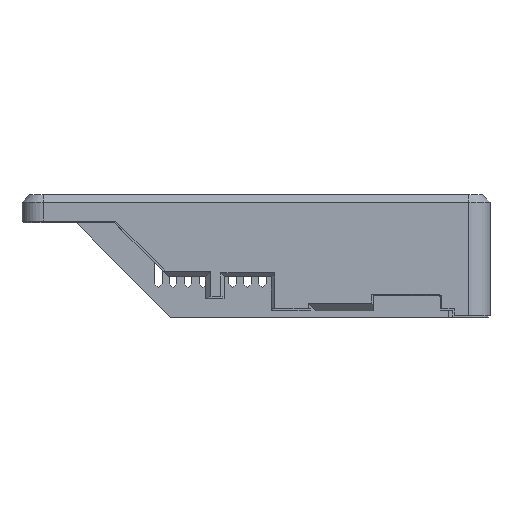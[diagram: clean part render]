
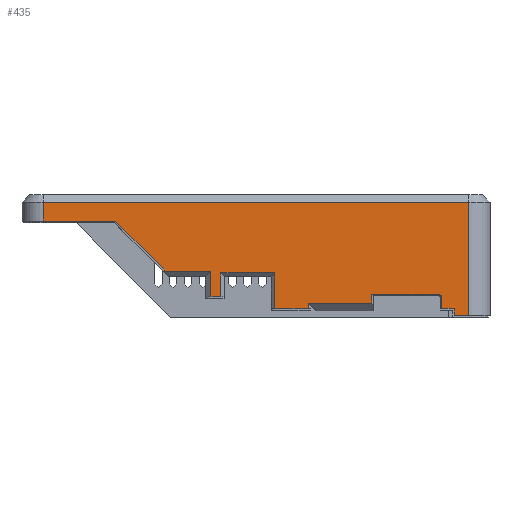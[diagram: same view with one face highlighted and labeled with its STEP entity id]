
A CAD part, front view. The second image highlights one B-rep face of the part: STEP entity #435.
In plain terms, the highlighted planar face has unit normal (0, -1, 0).
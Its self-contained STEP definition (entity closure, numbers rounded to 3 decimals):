
#127 = VERTEX_POINT('',#128);
#128 = CARTESIAN_POINT('',(42.95,-38.75,2.4));
#134 = EDGE_CURVE('',#127,#135,#137,.T.);
#135 = VERTEX_POINT('',#136);
#136 = CARTESIAN_POINT('',(42.95,-38.75,5.4));
#137 = LINE('',#138,#139);
#138 = CARTESIAN_POINT('',(42.95,-38.75,2.4));
#139 = VECTOR('',#140,1.);
#140 = DIRECTION('',(0.,0.,1.));
#188 = EDGE_CURVE('',#127,#189,#191,.T.);
#189 = VERTEX_POINT('',#190);
#190 = CARTESIAN_POINT('',(46.4,-38.75,2.4));
#191 = LINE('',#192,#193);
#192 = CARTESIAN_POINT('',(45.9,-38.75,2.4));
#193 = VECTOR('',#194,1.);
#194 = DIRECTION('',(1.,0.,0.));
#359 = EDGE_CURVE('',#135,#360,#362,.T.);
#360 = VERTEX_POINT('',#361);
#361 = CARTESIAN_POINT('',(42.05,-38.75,6.3));
#362 = CIRCLE('',#363,0.9);
#363 = AXIS2_PLACEMENT_3D('',#364,#365,#366);
#364 = CARTESIAN_POINT('',(42.05,-38.75,5.4));
#365 = DIRECTION('',(0.,-1.,0.));
#366 = DIRECTION('',(1.,0.,0.));
#435 = ADVANCED_FACE('',(#436),#591,.T.);
#436 = FACE_BOUND('',#437,.T.);
#437 = EDGE_LOOP('',(#438,#448,#456,#462,#463,#464,#465,#473,#481,#489,
    #497,#505,#513,#521,#529,#537,#545,#553,#561,#569,#577,#585));
#438 = ORIENTED_EDGE('',*,*,#439,.T.);
#439 = EDGE_CURVE('',#440,#442,#444,.T.);
#440 = VERTEX_POINT('',#441);
#441 = CARTESIAN_POINT('',(7.05,-38.75,3.9));
#442 = VERTEX_POINT('',#443);
#443 = CARTESIAN_POINT('',(24.15,-38.75,3.9));
#444 = LINE('',#445,#446);
#445 = CARTESIAN_POINT('',(27.475,-38.75,3.9));
#446 = VECTOR('',#447,1.);
#447 = DIRECTION('',(1.,0.,0.));
#448 = ORIENTED_EDGE('',*,*,#449,.F.);
#449 = EDGE_CURVE('',#450,#442,#452,.T.);
#450 = VERTEX_POINT('',#451);
#451 = CARTESIAN_POINT('',(24.15,-38.75,6.3));
#452 = LINE('',#453,#454);
#453 = CARTESIAN_POINT('',(24.15,-38.75,5.9));
#454 = VECTOR('',#455,1.);
#455 = DIRECTION('',(0.,0.,-1.));
#456 = ORIENTED_EDGE('',*,*,#457,.F.);
#457 = EDGE_CURVE('',#360,#450,#458,.T.);
#458 = LINE('',#459,#460);
#459 = CARTESIAN_POINT('',(42.05,-38.75,6.3));
#460 = VECTOR('',#461,1.);
#461 = DIRECTION('',(-1.,0.,0.));
#462 = ORIENTED_EDGE('',*,*,#359,.F.);
#463 = ORIENTED_EDGE('',*,*,#134,.F.);
#464 = ORIENTED_EDGE('',*,*,#188,.T.);
#465 = ORIENTED_EDGE('',*,*,#466,.T.);
#466 = EDGE_CURVE('',#189,#467,#469,.T.);
#467 = VERTEX_POINT('',#468);
#468 = CARTESIAN_POINT('',(46.4,-38.75,0.6));
#469 = LINE('',#470,#471);
#470 = CARTESIAN_POINT('',(46.4,-38.75,0.1));
#471 = VECTOR('',#472,1.);
#472 = DIRECTION('',(0.,0.,-1.));
#473 = ORIENTED_EDGE('',*,*,#474,.T.);
#474 = EDGE_CURVE('',#467,#475,#477,.T.);
#475 = VERTEX_POINT('',#476);
#476 = CARTESIAN_POINT('',(50.25,-38.75,0.6));
#477 = LINE('',#478,#479);
#478 = CARTESIAN_POINT('',(49.45,-38.75,0.6));
#479 = VECTOR('',#480,1.);
#480 = DIRECTION('',(1.,0.,0.));
#481 = ORIENTED_EDGE('',*,*,#482,.T.);
#482 = EDGE_CURVE('',#475,#483,#485,.T.);
#483 = VERTEX_POINT('',#484);
#484 = CARTESIAN_POINT('',(50.25,-38.75,31.1));
#485 = LINE('',#486,#487);
#486 = CARTESIAN_POINT('',(50.25,-38.75,0.1));
#487 = VECTOR('',#488,1.);
#488 = DIRECTION('',(0.,0.,1.));
#489 = ORIENTED_EDGE('',*,*,#490,.F.);
#490 = EDGE_CURVE('',#491,#483,#493,.T.);
#491 = VERTEX_POINT('',#492);
#492 = CARTESIAN_POINT('',(-64.25,-38.75,31.1));
#493 = LINE('',#494,#495);
#494 = CARTESIAN_POINT('',(19.45,-38.75,31.1));
#495 = VECTOR('',#496,1.);
#496 = DIRECTION('',(1.,0.,0.));
#497 = ORIENTED_EDGE('',*,*,#498,.F.);
#498 = EDGE_CURVE('',#499,#491,#501,.T.);
#499 = VERTEX_POINT('',#500);
#500 = CARTESIAN_POINT('',(-64.25,-38.75,26.));
#501 = LINE('',#502,#503);
#502 = CARTESIAN_POINT('',(-64.25,-38.75,30.1));
#503 = VECTOR('',#504,1.);
#504 = DIRECTION('',(0.,0.,1.));
#505 = ORIENTED_EDGE('',*,*,#506,.T.);
#506 = EDGE_CURVE('',#499,#507,#509,.T.);
#507 = VERTEX_POINT('',#508);
#508 = CARTESIAN_POINT('',(-44.793,-38.75,26.));
#509 = LINE('',#510,#511);
#510 = CARTESIAN_POINT('',(0.45,-38.75,26.));
#511 = VECTOR('',#512,1.);
#512 = DIRECTION('',(1.,0.,0.));
#513 = ORIENTED_EDGE('',*,*,#514,.T.);
#514 = EDGE_CURVE('',#507,#515,#517,.T.);
#515 = VERTEX_POINT('',#516);
#516 = CARTESIAN_POINT('',(-31.621,-38.75,12.828));
#517 = LINE('',#518,#519);
#518 = CARTESIAN_POINT('',(-9.059,-38.75,-9.734));
#519 = VECTOR('',#520,1.);
#520 = DIRECTION('',(0.707,0.,-0.707));
#521 = ORIENTED_EDGE('',*,*,#522,.T.);
#522 = EDGE_CURVE('',#515,#523,#525,.T.);
#523 = VERTEX_POINT('',#524);
#524 = CARTESIAN_POINT('',(-31.975,-38.75,12.475));
#525 = LINE('',#526,#527);
#526 = CARTESIAN_POINT('',(-15.511,-38.75,28.938));
#527 = VECTOR('',#528,1.);
#528 = DIRECTION('',(-0.707,0.,-0.707));
#529 = ORIENTED_EDGE('',*,*,#530,.F.);
#530 = EDGE_CURVE('',#531,#523,#533,.T.);
#531 = VERTEX_POINT('',#532);
#532 = CARTESIAN_POINT('',(-19.121,-38.75,12.475));
#533 = LINE('',#534,#535);
#534 = CARTESIAN_POINT('',(12.64,-38.75,12.475));
#535 = VECTOR('',#536,1.);
#536 = DIRECTION('',(-1.,0.,0.));
#537 = ORIENTED_EDGE('',*,*,#538,.F.);
#538 = EDGE_CURVE('',#539,#531,#541,.T.);
#539 = VERTEX_POINT('',#540);
#540 = CARTESIAN_POINT('',(-19.121,-38.75,5.6));
#541 = LINE('',#542,#543);
#542 = CARTESIAN_POINT('',(-19.121,-38.75,15.1));
#543 = VECTOR('',#544,1.);
#544 = DIRECTION('',(0.,0.,1.));
#545 = ORIENTED_EDGE('',*,*,#546,.T.);
#546 = EDGE_CURVE('',#539,#547,#549,.T.);
#547 = VERTEX_POINT('',#548);
#548 = CARTESIAN_POINT('',(-16.45,-38.75,5.6));
#549 = LINE('',#550,#551);
#550 = CARTESIAN_POINT('',(12.64,-38.75,5.6));
#551 = VECTOR('',#552,1.);
#552 = DIRECTION('',(1.,0.,0.));
#553 = ORIENTED_EDGE('',*,*,#554,.F.);
#554 = EDGE_CURVE('',#555,#547,#557,.T.);
#555 = VERTEX_POINT('',#556);
#556 = CARTESIAN_POINT('',(-16.45,-38.75,12.05));
#557 = LINE('',#558,#559);
#558 = CARTESIAN_POINT('',(-16.45,-38.75,15.1));
#559 = VECTOR('',#560,1.);
#560 = DIRECTION('',(0.,0.,-1.));
#561 = ORIENTED_EDGE('',*,*,#562,.F.);
#562 = EDGE_CURVE('',#563,#555,#565,.T.);
#563 = VERTEX_POINT('',#564);
#564 = CARTESIAN_POINT('',(-1.95,-38.75,12.05));
#565 = LINE('',#566,#567);
#566 = CARTESIAN_POINT('',(21.475,-38.75,12.05));
#567 = VECTOR('',#568,1.);
#568 = DIRECTION('',(-1.,0.,0.));
#569 = ORIENTED_EDGE('',*,*,#570,.F.);
#570 = EDGE_CURVE('',#571,#563,#573,.T.);
#571 = VERTEX_POINT('',#572);
#572 = CARTESIAN_POINT('',(-1.95,-38.75,2.4));
#573 = LINE('',#574,#575);
#574 = CARTESIAN_POINT('',(-1.95,-38.75,15.1));
#575 = VECTOR('',#576,1.);
#576 = DIRECTION('',(0.,0.,1.));
#577 = ORIENTED_EDGE('',*,*,#578,.T.);
#578 = EDGE_CURVE('',#571,#579,#581,.T.);
#579 = VERTEX_POINT('',#580);
#580 = CARTESIAN_POINT('',(7.05,-38.75,2.4));
#581 = LINE('',#582,#583);
#582 = CARTESIAN_POINT('',(21.475,-38.75,2.4));
#583 = VECTOR('',#584,1.);
#584 = DIRECTION('',(1.,0.,0.));
#585 = ORIENTED_EDGE('',*,*,#586,.T.);
#586 = EDGE_CURVE('',#579,#440,#587,.T.);
#587 = LINE('',#588,#589);
#588 = CARTESIAN_POINT('',(7.05,-38.75,1.));
#589 = VECTOR('',#590,1.);
#590 = DIRECTION('',(0.,0.,1.));
#591 = PLANE('',#592);
#592 = AXIS2_PLACEMENT_3D('',#593,#594,#595);
#593 = CARTESIAN_POINT('',(-1.975,-38.75,19.301));
#594 = DIRECTION('',(-0.,-1.,-0.));
#595 = DIRECTION('',(0.,0.,-1.));
